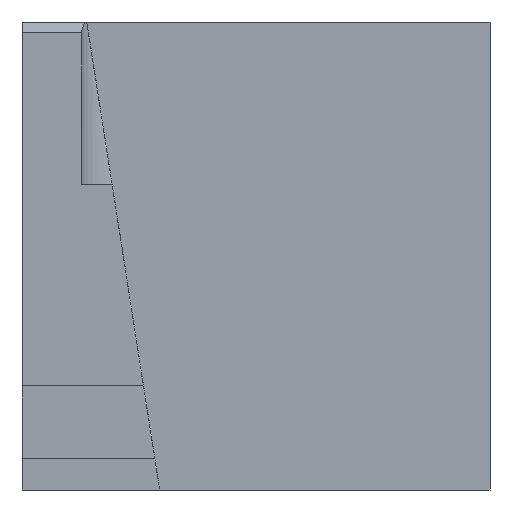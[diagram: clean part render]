
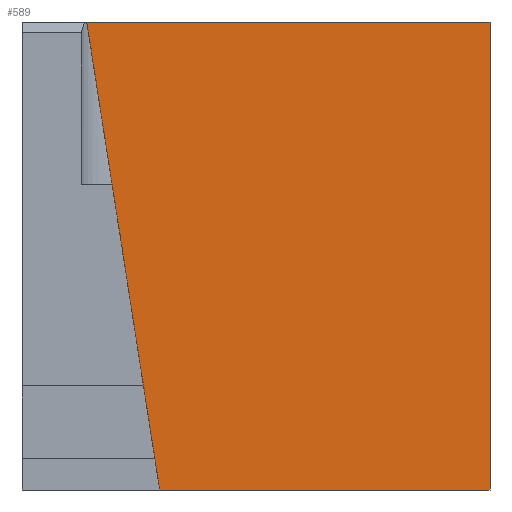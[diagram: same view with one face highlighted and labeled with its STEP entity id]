
A CAD part, front view. The second image highlights one B-rep face of the part: STEP entity #589.
In plain terms, the highlighted planar face has unit normal (0, -1, 0).
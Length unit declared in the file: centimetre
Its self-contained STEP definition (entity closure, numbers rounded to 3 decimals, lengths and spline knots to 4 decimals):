
#56 = ORIENTED_EDGE ( 'NONE', *, *, #1270, .F. ) ;
#113 = CARTESIAN_POINT ( 'NONE',  ( 294.3824, 0., 0. ) ) ;
#185 = CARTESIAN_POINT ( 'NONE',  ( 138.4802, 0., 1000. ) ) ;
#211 = CARTESIAN_POINT ( 'NONE',  ( 138.4802, 0., 1000. ) ) ;
#274 = ORIENTED_EDGE ( 'NONE', *, *, #944, .F. ) ;
#361 = PLANE ( 'NONE',  #576 ) ;
#463 = VERTEX_POINT ( 'NONE', #1280 ) ;
#473 = VECTOR ( 'NONE', #652, 100. ) ;
#576 = AXIS2_PLACEMENT_3D ( 'NONE', #980, #651, #1711 ) ;
#589 = ADVANCED_FACE ( 'NONE', ( #1278 ), #361, .F. ) ;
#604 = DIRECTION ( 'NONE',  ( 1., 0., 0. ) ) ;
#651 = DIRECTION ( 'NONE',  ( 0., 1., 0. ) ) ;
#652 = DIRECTION ( 'NONE',  ( 1., 0., 0. ) ) ;
#747 = LINE ( 'NONE', #1655, #1380 ) ;
#753 = EDGE_LOOP ( 'NONE', ( #274, #1881, #1729, #56 ) ) ;
#780 = CARTESIAN_POINT ( 'NONE',  ( 0., 0., 0. ) ) ;
#803 = CARTESIAN_POINT ( 'NONE',  ( 1000., 0., 1000. ) ) ;
#834 = VECTOR ( 'NONE', #1805, 100. ) ;
#933 = LINE ( 'NONE', #780, #473 ) ;
#944 = EDGE_CURVE ( 'NONE', #1105, #1197, #747, .T. ) ;
#980 = CARTESIAN_POINT ( 'NONE',  ( 0., 0., 1000. ) ) ;
#1105 = VERTEX_POINT ( 'NONE', #211 ) ;
#1184 = LINE ( 'NONE', #1313, #1810 ) ;
#1197 = VERTEX_POINT ( 'NONE', #803 ) ;
#1270 = EDGE_CURVE ( 'NONE', #1197, #463, #1184, .T. ) ;
#1278 = FACE_OUTER_BOUND ( 'NONE', #753, .T. ) ;
#1280 = CARTESIAN_POINT ( 'NONE',  ( 1000., 0., 0. ) ) ;
#1313 = CARTESIAN_POINT ( 'NONE',  ( 1000., 0., 1000. ) ) ;
#1380 = VECTOR ( 'NONE', #604, 100. ) ;
#1448 = EDGE_CURVE ( 'NONE', #1659, #1105, #1645, .T. ) ;
#1516 = EDGE_CURVE ( 'NONE', #1659, #463, #933, .T. ) ;
#1645 = LINE ( 'NONE', #185, #834 ) ;
#1655 = CARTESIAN_POINT ( 'NONE',  ( 0., 0., 1000. ) ) ;
#1659 = VERTEX_POINT ( 'NONE', #113 ) ;
#1711 = DIRECTION ( 'NONE',  ( 0., 0., 1. ) ) ;
#1729 = ORIENTED_EDGE ( 'NONE', *, *, #1516, .T. ) ;
#1757 = DIRECTION ( 'NONE',  ( 0., 0., -1. ) ) ;
#1805 = DIRECTION ( 'NONE',  ( -0.154, 0., 0.988 ) ) ;
#1810 = VECTOR ( 'NONE', #1757, 100. ) ;
#1881 = ORIENTED_EDGE ( 'NONE', *, *, #1448, .F. ) ;
